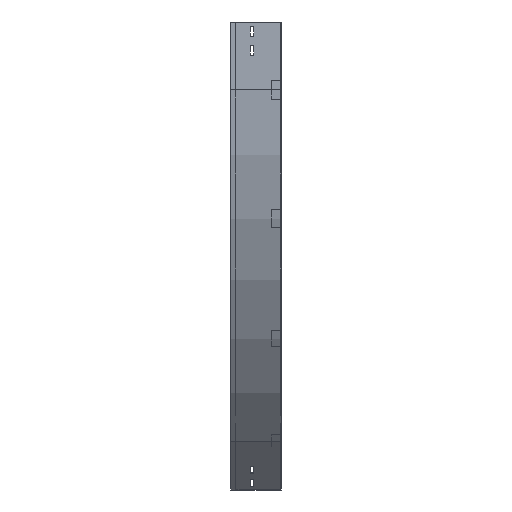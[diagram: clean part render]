
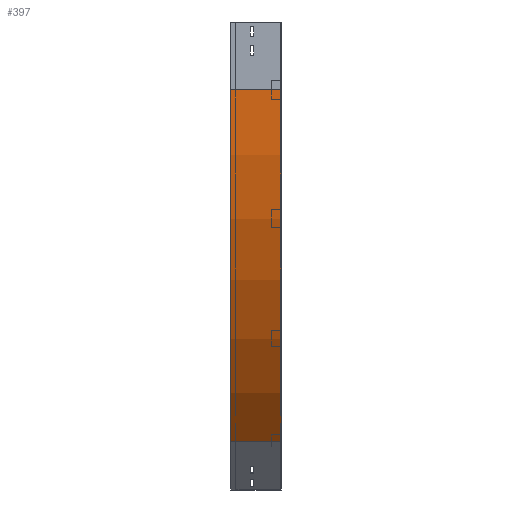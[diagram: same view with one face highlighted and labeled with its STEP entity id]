
A CAD part, left-side view. The second image highlights one B-rep face of the part: STEP entity #397.
In plain terms, the highlighted cylindrical face has radius 1100 mm (diameter 2200 mm), a partial arc.
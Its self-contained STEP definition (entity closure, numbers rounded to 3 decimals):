
#272 = CARTESIAN_POINT ( 'NONE',  ( 1100., 112.5, -150. ) ) ;
#351 = DIRECTION ( 'NONE',  ( 0., -1., 0. ) ) ;
#397 = ADVANCED_FACE ( 'NONE', ( #2425 ), #3621, .T. ) ;
#489 = ORIENTED_EDGE ( 'NONE', *, *, #2102, .F. ) ;
#787 = DIRECTION ( 'NONE',  ( 0., -1., 0. ) ) ;
#803 = EDGE_CURVE ( 'NONE', #1605, #2125, #3353, .T. ) ;
#890 = ORIENTED_EDGE ( 'NONE', *, *, #1538, .T. ) ;
#923 = ORIENTED_EDGE ( 'NONE', *, *, #803, .F. ) ;
#930 = DIRECTION ( 'NONE',  ( 0., -1., 0. ) ) ;
#1150 = CARTESIAN_POINT ( 'NONE',  ( 0., 112.5, -150. ) ) ;
#1381 = EDGE_LOOP ( 'NONE', ( #489, #923, #3524, #890 ) ) ;
#1538 = EDGE_CURVE ( 'NONE', #1840, #1600, #1604, .T. ) ;
#1600 = VERTEX_POINT ( 'NONE', #2386 ) ;
#1604 = LINE ( 'NONE', #3757, #2265 ) ;
#1605 = VERTEX_POINT ( 'NONE', #1150 ) ;
#1618 = AXIS2_PLACEMENT_3D ( 'NONE', #3329, #351, #2735 ) ;
#1623 = DIRECTION ( 'NONE',  ( -1., 0., 0. ) ) ;
#1803 = AXIS2_PLACEMENT_3D ( 'NONE', #3134, #787, #1623 ) ;
#1840 = VERTEX_POINT ( 'NONE', #3148 ) ;
#2102 = EDGE_CURVE ( 'NONE', #2125, #1600, #2854, .T. ) ;
#2125 = VERTEX_POINT ( 'NONE', #2507 ) ;
#2265 = VECTOR ( 'NONE', #2799, 1000. ) ;
#2377 = DIRECTION ( 'NONE',  ( -1., 0., 0. ) ) ;
#2386 = CARTESIAN_POINT ( 'NONE',  ( 322.183, 0., -927.817 ) ) ;
#2425 = FACE_OUTER_BOUND ( 'NONE', #1381, .T. ) ;
#2507 = CARTESIAN_POINT ( 'NONE',  ( 0., 0., -150. ) ) ;
#2545 = EDGE_CURVE ( 'NONE', #1605, #1840, #2744, .T. ) ;
#2622 = VECTOR ( 'NONE', #3651, 1000. ) ;
#2735 = DIRECTION ( 'NONE',  ( 0., 0., -1. ) ) ;
#2744 = CIRCLE ( 'NONE', #3185, 1100. ) ;
#2799 = DIRECTION ( 'NONE',  ( 0., -1., 0. ) ) ;
#2837 = CARTESIAN_POINT ( 'NONE',  ( 0., 0., -150. ) ) ;
#2854 = CIRCLE ( 'NONE', #1803, 1100. ) ;
#3134 = CARTESIAN_POINT ( 'NONE',  ( 1100., 0., -150. ) ) ;
#3148 = CARTESIAN_POINT ( 'NONE',  ( 322.183, 112.5, -927.817 ) ) ;
#3185 = AXIS2_PLACEMENT_3D ( 'NONE', #272, #930, #2377 ) ;
#3329 = CARTESIAN_POINT ( 'NONE',  ( 1100., 0., -150. ) ) ;
#3353 = LINE ( 'NONE', #2837, #2622 ) ;
#3524 = ORIENTED_EDGE ( 'NONE', *, *, #2545, .T. ) ;
#3621 = CYLINDRICAL_SURFACE ( 'NONE', #1618, 1100. ) ;
#3651 = DIRECTION ( 'NONE',  ( 0., -1., 0. ) ) ;
#3757 = CARTESIAN_POINT ( 'NONE',  ( 322.183, 0., -927.817 ) ) ;
